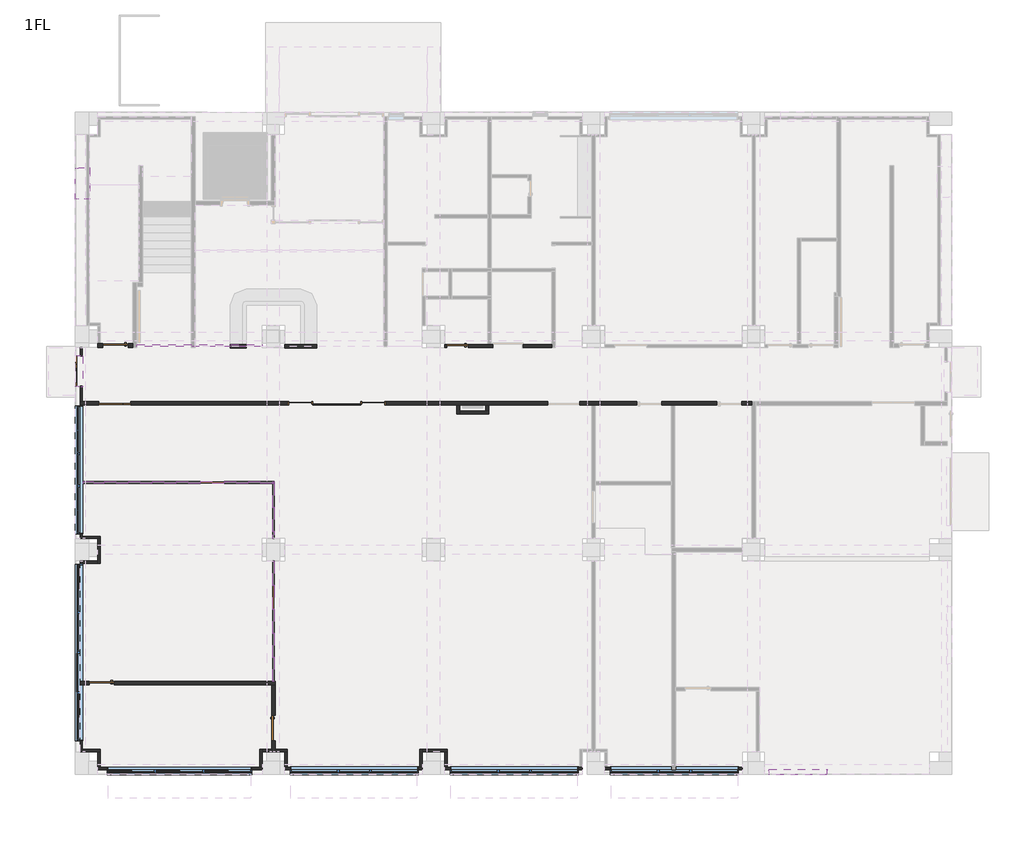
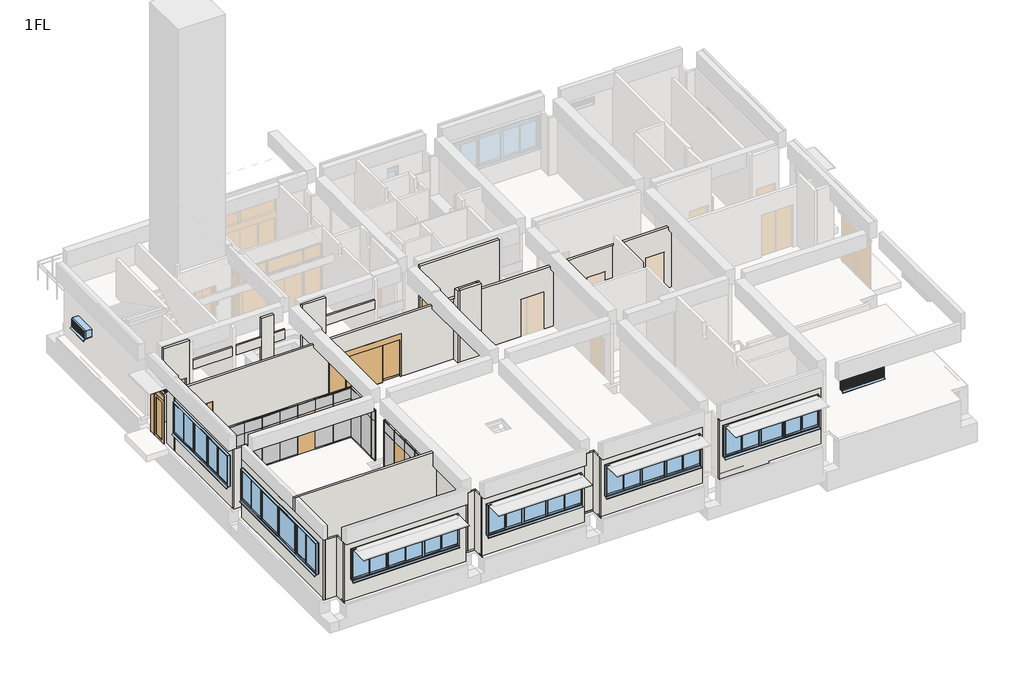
# One storey, part 1 of 7: 32 plates, 28 walls, 9 doors, 9 windows, 4 members.
"""IFC4 building model written with IfcOpenShell, lengths in millimetres."""

from ifc_helpers import new_model, si_unit, frame, origin, origin_with_axes, place, context, project, spatial, polyline, outline, extrude, faceted_brep, transform, mapped, element, save
from components import door_18b0804b, door_0812e9ce, door_48d1ee04, door_c406cbe6, door_71913196, pt1_1e1990d0, sd1b_5d5fe467, member_b4131282, member_8fee23aa, plate_13d9f7b6, plate_d83be5bd, plate_2d8f2c81, plate_48031bed, plate_dcb82f18, plate_a020456c, plate_84f50978, plate_53a28b3e, plate_ee08bcfe, plate_43aaac86, ag_01_14c91b01, ag_04_e8160d57, ag_05_8d684ac1, aw1_359d20a0, aw2_52e0dac3, aw3_6590dba5

model = new_model("IFC4")

# Units and contexts
model_context = context("Model", 3, world=origin())
ifc_project = project(units=[si_unit("LENGTHUNIT", "METRE", prefix="MILLI")], contexts=[model_context])

# Site, building, storey
site = spatial("IfcSite", under=ifc_project)
building = spatial("IfcBuilding", under=site)
storey = spatial("IfcBuildingStorey", under=building, Name="1FL", Elevation=0.0)

# Doors
placement = place(None, origin())
door_shape = door_18b0804b(model_context)
element("IfcDoor", 1, ObjectType="営_親子扉 : LD2 1200*2000", at=placement, inside=storey, context=model_context, shape_type="MappedRepresentation", body=[
    mapped(door_shape, transform((1055.0, 13500.0, 0.0), x_axis=(-1.0, 0.0, 0.0), y_axis=(0.0, -1.0, 0.0), z_axis=(0.0, 0.0, 1.0))),
])
door_2_shape = door_0812e9ce(model_context)
element("IfcDoor", 2, ObjectType="営_片開き扉 : LD3 950*2000", at=placement, inside=storey, context=model_context, shape_type="MappedRepresentation", body=[
    mapped(door_2_shape, transform((565.0, 3000.0, 0.0), x_axis=(-1.0, 0.0, 0.0), y_axis=(0.0, -1.0, 0.0), z_axis=(0.0, 0.0, 1.0))),
])
element("IfcDoor", 3, ObjectType="営_片開き扉 : LD3 950*2000", at=placement, inside=storey, context=model_context, shape_type="MappedRepresentation", body=[
    mapped(door_2_shape, transform((7000.0, 1320.0, 0.0), x_axis=(0.0, -1.0, 0.0), y_axis=(1.0, 0.0, 0.0), z_axis=(0.0, 0.0, 1.0))),
])
door_3_shape = door_48d1ee04(model_context)
element("IfcDoor", 4, ObjectType="営_片開き扉 : LD11 850*2000", at=placement, inside=storey, context=model_context, shape_type="MappedRepresentation", body=[
    mapped(door_3_shape, transform((13900.0, 15640.0, 0.0), x_axis=(-1.0, 0.0, 0.0), y_axis=(0.0, -1.0, 0.0), z_axis=(0.0, 0.0, 1.0))),
])
door_4_shape = door_c406cbe6(model_context)
element("IfcDoor", 5, ObjectType="営_片開き扉 : LD3 950*2000", at=placement, inside=storey, context=model_context, shape_type="MappedRepresentation", body=[
    mapped(door_4_shape, transform((1075.0, 15655.0, 0.0), x_axis=(-1.0, 0.0, 0.0), y_axis=(0.0, -1.0, 0.0), z_axis=(0.0, 0.0, 1.0))),
])
door_5_shape = door_71913196(model_context)
element("IfcDoor", 6, ObjectType="営_自動ドア 両引き : SSD2 3600*2300", at=placement, inside=storey, context=model_context, shape_type="MappedRepresentation", body=[
    mapped(door_5_shape, transform((9372.3723775, 13490.0, 0.0), x_axis=(-1.0, 0.0, 0.0), y_axis=(0.0, -1.0, 0.0), z_axis=(0.0, 0.0, 1.0))),
])
pt1_shape = pt1_1e1990d0(model_context)
element("IfcDoor", 7, ObjectType="営_パーティションドア : PT1", at=placement, inside=storey, context=model_context, shape_type="MappedRepresentation", body=[
    mapped(pt1_shape, transform((4714.9999997, 10520.0, 0.0), x_axis=(-1.0, 0.0, 0.0), y_axis=(0.0, -1.0, 0.0), z_axis=(0.0, 0.0, 1.0))),
])
element("IfcDoor", 8, ObjectType="営_パーティションドア : PT2", at=placement, inside=storey, context=model_context, shape_type="MappedRepresentation", body=[
    mapped(pt1_shape, transform((7000.0, 6220.0, 0.0), x_axis=(0.0, 1.0, 0.0), y_axis=(-1.0, 0.0, 0.0), z_axis=(0.0, 0.0, 1.0))),
])
sd1b_shape = sd1b_5d5fe467(model_context)
element("IfcDoor", 9, ObjectType="営_親子扉+ランマ : SD1b", at=placement, inside=storey, context=model_context, shape_type="MappedRepresentation", body=[
    mapped(sd1b_shape, transform((-335.0, 14707.5, 0.0), x_axis=(0.0, -1.0, 0.0), y_axis=(1.0, 0.0, 0.0), z_axis=(0.0, 0.0, 1.0))),
])

# Members
member_shape = member_b4131282(model_context)
element("IfcMember", 10, ObjectType="長方形マリオン : 70*70", at=placement, inside=storey, context=model_context, shape_type="MappedRepresentation", body=[
    mapped(member_shape, transform((7000.0, 10555.0, 0.0), x_axis=(0.0, 1.0, 0.0), y_axis=(1.0, 0.0, 0.0), z_axis=(0.0, 0.0, -1.0))),
])
element("IfcMember", 11, ObjectType="長方形マリオン : 70*70", at=placement, inside=storey, context=model_context, shape_type="MappedRepresentation", body=[
    mapped(member_shape, transform((7035.0, 10520.0, 0.0), x_axis=(1.0, 0.0, 0.0), y_axis=(0.0, -1.0, 0.0), z_axis=(0.0, 0.0, -1.0))),
])
member_2_shape = member_8fee23aa(model_context)
element("IfcMember", 12, ObjectType="長方形マリオン : 70*70", at=placement, inside=storey, context=model_context, shape_type="MappedRepresentation", body=[
    mapped(member_2_shape, transform((7000.0, 10555.0, 2100.0), x_axis=(0.0, 1.0, 0.0), y_axis=(1.0, 0.0, 0.0), z_axis=(0.0, 0.0, -1.0))),
])
element("IfcMember", 13, ObjectType="長方形マリオン : 70*70", at=placement, inside=storey, context=model_context, shape_type="MappedRepresentation", body=[
    mapped(member_2_shape, transform((7035.0, 10520.0, 2100.0), x_axis=(1.0, 0.0, 0.0), y_axis=(0.0, -1.0, 0.0), z_axis=(0.0, 0.0, -1.0))),
])

# Plates
plate_shape = plate_13d9f7b6(model_context)
element("IfcPlate", 14, ObjectType="営_パーティションパネル_下部 : パーティションパネル_下部", at=placement, inside=storey, context=model_context, shape_type="MappedRepresentation", body=[
    mapped(plate_shape, transform((7000.0, 7580.0, 0.0), x_axis=(0.0, -1.0, 0.0), y_axis=(1.0, 0.0, 0.0), z_axis=(0.0, 0.0, 1.0))),
])
plate_2_shape = plate_d83be5bd(model_context)
element("IfcPlate", 15, ObjectType="営_パーティションパネル_上部 : パーティションパネル_上部", at=placement, inside=storey, context=model_context, shape_type="MappedRepresentation", body=[
    mapped(plate_2_shape, transform((7000.0, 7580.0, 2100.0), x_axis=(0.0, -1.0, 0.0), y_axis=(1.0, 0.0, 0.0), z_axis=(0.0, 0.0, 1.0))),
])
plate_3_shape = plate_2d8f2c81(model_context)
element("IfcPlate", 16, ObjectType="営_パーティションパネル_下部 : パーティションパネル_下部", at=placement, inside=storey, context=model_context, shape_type="MappedRepresentation", body=[
    mapped(plate_3_shape, transform((267.4999998, 10520.0, 0.0), x_axis=(1.0, 0.0, 0.0), y_axis=(0.0, 1.0, 0.0), z_axis=(0.0, 0.0, 1.0))),
])
plate_4_shape = plate_48031bed(model_context)
element("IfcPlate", 17, ObjectType="営_パーティションパネル_上部 : パーティションパネル_上部", at=placement, inside=storey, context=model_context, shape_type="MappedRepresentation", body=[
    mapped(plate_4_shape, transform((267.4999998, 10520.0, 2100.0), x_axis=(1.0, 0.0, 0.0), y_axis=(0.0, 1.0, 0.0), z_axis=(0.0, 0.0, 1.0))),
])
plate_5_shape = plate_dcb82f18(model_context)
element("IfcPlate", 18, ObjectType="営_パーティションパネル_下部 : パーティションパネル_下部", at=placement, inside=storey, context=model_context, shape_type="MappedRepresentation", body=[
    mapped(plate_5_shape, transform((7000.0, 3515.0, 0.0), x_axis=(0.0, -1.0, 0.0), y_axis=(1.0, 0.0, 0.0), z_axis=(0.0, 0.0, 1.0))),
])
plate_6_shape = plate_a020456c(model_context)
element("IfcPlate", 19, ObjectType="営_パーティションパネル_上部 : パーティションパネル_上部", at=placement, inside=storey, context=model_context, shape_type="MappedRepresentation", body=[
    mapped(plate_6_shape, transform((7000.0, 3515.0, 2100.0), x_axis=(0.0, -1.0, 0.0), y_axis=(1.0, 0.0, 0.0), z_axis=(0.0, 0.0, 1.0))),
])
plate_7_shape = plate_84f50978(model_context)
element("IfcPlate", 20, ObjectType="営_パーティションパネル_下部 : パーティションパネル_下部", at=placement, inside=storey, context=model_context, shape_type="MappedRepresentation", body=[
    mapped(plate_7_shape, transform((1114.9999997, 10520.0, 0.0), x_axis=(1.0, 0.0, 0.0), y_axis=(0.0, 1.0, 0.0), z_axis=(0.0, 0.0, 1.0))),
])
element("IfcPlate", 21, ObjectType="営_パーティションパネル_下部 : パーティションパネル_下部", at=placement, inside=storey, context=model_context, shape_type="MappedRepresentation", body=[
    mapped(plate_7_shape, transform((2014.9999997, 10520.0, 0.0), x_axis=(1.0, 0.0, 0.0), y_axis=(0.0, 1.0, 0.0), z_axis=(0.0, 0.0, 1.0))),
])
element("IfcPlate", 22, ObjectType="営_パーティションパネル_下部 : パーティションパネル_下部", at=placement, inside=storey, context=model_context, shape_type="MappedRepresentation", body=[
    mapped(plate_7_shape, transform((2914.9999997, 10520.0, 0.0), x_axis=(1.0, 0.0, 0.0), y_axis=(0.0, 1.0, 0.0), z_axis=(0.0, 0.0, 1.0))),
])
element("IfcPlate", 23, ObjectType="営_パーティションパネル_下部 : パーティションパネル_下部", at=placement, inside=storey, context=model_context, shape_type="MappedRepresentation", body=[
    mapped(plate_7_shape, transform((3814.9999997, 10520.0, 0.0), x_axis=(1.0, 0.0, 0.0), y_axis=(0.0, 1.0, 0.0), z_axis=(0.0, 0.0, 1.0))),
])
element("IfcPlate", 24, ObjectType="営_パーティションパネル_下部 : パーティションパネル_下部", at=placement, inside=storey, context=model_context, shape_type="MappedRepresentation", body=[
    mapped(plate_7_shape, transform((5614.9999997, 10520.0, 0.0), x_axis=(1.0, 0.0, 0.0), y_axis=(0.0, 1.0, 0.0), z_axis=(0.0, 0.0, 1.0))),
])
element("IfcPlate", 25, ObjectType="営_パーティションパネル_下部 : パーティションパネル_下部", at=placement, inside=storey, context=model_context, shape_type="MappedRepresentation", body=[
    mapped(plate_7_shape, transform((7000.0, 9134.9999997, 0.0), x_axis=(0.0, 1.0, 0.0), y_axis=(-1.0, 0.0, 0.0), z_axis=(0.0, 0.0, 1.0))),
])
element("IfcPlate", 26, ObjectType="営_パーティションパネル_下部 : パーティションパネル_下部", at=placement, inside=storey, context=model_context, shape_type="MappedRepresentation", body=[
    mapped(plate_7_shape, transform((7000.0, 10034.9999998, 0.0), x_axis=(0.0, 1.0, 0.0), y_axis=(-1.0, 0.0, 0.0), z_axis=(0.0, 0.0, 1.0))),
])
element("IfcPlate", 27, ObjectType="営_パーティションパネル_下部 : パーティションパネル_下部", at=placement, inside=storey, context=model_context, shape_type="MappedRepresentation", body=[
    mapped(plate_7_shape, transform((6514.9999998, 10520.0, 0.0), x_axis=(1.0, 0.0, 0.0), y_axis=(0.0, 1.0, 0.0), z_axis=(0.0, 0.0, 1.0))),
])
element("IfcPlate", 28, ObjectType="営_パーティションパネル_下部 : パーティションパネル_下部", at=placement, inside=storey, context=model_context, shape_type="MappedRepresentation", body=[
    mapped(plate_7_shape, transform((7000.0, 5320.0, 0.0), x_axis=(0.0, -1.0, 0.0), y_axis=(1.0, 0.0, 0.0), z_axis=(0.0, 0.0, 1.0))),
])
element("IfcPlate", 29, ObjectType="営_パーティションパネル_下部 : パーティションパネル_下部", at=placement, inside=storey, context=model_context, shape_type="MappedRepresentation", body=[
    mapped(plate_7_shape, transform((7000.0, 4420.0, 0.0), x_axis=(0.0, -1.0, 0.0), y_axis=(1.0, 0.0, 0.0), z_axis=(0.0, 0.0, 1.0))),
])
element("IfcPlate", 30, ObjectType="営_パーティションパネル_下部 : パーティションパネル_下部", at=placement, inside=storey, context=model_context, shape_type="MappedRepresentation", body=[
    mapped(plate_7_shape, transform((7000.0, 7120.0, 0.0), x_axis=(0.0, -1.0, 0.0), y_axis=(1.0, 0.0, 0.0), z_axis=(0.0, 0.0, 1.0))),
])
plate_8_shape = plate_53a28b3e(model_context)
element("IfcPlate", 31, ObjectType="営_パーティションパネル_上部 : パーティションパネル_上部", at=placement, inside=storey, context=model_context, shape_type="MappedRepresentation", body=[
    mapped(plate_8_shape, transform((1114.9999997, 10520.0, 2100.0), x_axis=(1.0, 0.0, 0.0), y_axis=(0.0, 1.0, 0.0), z_axis=(0.0, 0.0, 1.0))),
])
element("IfcPlate", 32, ObjectType="営_パーティションパネル_上部 : パーティションパネル_上部", at=placement, inside=storey, context=model_context, shape_type="MappedRepresentation", body=[
    mapped(plate_8_shape, transform((2014.9999997, 10520.0, 2100.0), x_axis=(1.0, 0.0, 0.0), y_axis=(0.0, 1.0, 0.0), z_axis=(0.0, 0.0, 1.0))),
])
element("IfcPlate", 33, ObjectType="営_パーティションパネル_上部 : パーティションパネル_上部", at=placement, inside=storey, context=model_context, shape_type="MappedRepresentation", body=[
    mapped(plate_8_shape, transform((2914.9999997, 10520.0, 2100.0), x_axis=(1.0, 0.0, 0.0), y_axis=(0.0, 1.0, 0.0), z_axis=(0.0, 0.0, 1.0))),
])
element("IfcPlate", 34, ObjectType="営_パーティションパネル_上部 : パーティションパネル_上部", at=placement, inside=storey, context=model_context, shape_type="MappedRepresentation", body=[
    mapped(plate_8_shape, transform((3814.9999997, 10520.0, 2100.0), x_axis=(1.0, 0.0, 0.0), y_axis=(0.0, 1.0, 0.0), z_axis=(0.0, 0.0, 1.0))),
])
element("IfcPlate", 35, ObjectType="営_パーティションパネル_上部 : パーティションパネル_上部", at=placement, inside=storey, context=model_context, shape_type="MappedRepresentation", body=[
    mapped(plate_8_shape, transform((4714.9999997, 10520.0, 2100.0), x_axis=(1.0, 0.0, 0.0), y_axis=(0.0, 1.0, 0.0), z_axis=(0.0, 0.0, 1.0))),
])
element("IfcPlate", 36, ObjectType="営_パーティションパネル_上部 : パーティションパネル_上部", at=placement, inside=storey, context=model_context, shape_type="MappedRepresentation", body=[
    mapped(plate_8_shape, transform((5614.9999997, 10520.0, 2100.0), x_axis=(1.0, 0.0, 0.0), y_axis=(0.0, 1.0, 0.0), z_axis=(0.0, 0.0, 1.0))),
])
element("IfcPlate", 37, ObjectType="営_パーティションパネル_上部 : パーティションパネル_上部", at=placement, inside=storey, context=model_context, shape_type="MappedRepresentation", body=[
    mapped(plate_8_shape, transform((7000.0, 9134.9999997, 2100.0), x_axis=(0.0, 1.0, 0.0), y_axis=(-1.0, 0.0, 0.0), z_axis=(0.0, 0.0, 1.0))),
])
element("IfcPlate", 38, ObjectType="営_パーティションパネル_上部 : パーティションパネル_上部", at=placement, inside=storey, context=model_context, shape_type="MappedRepresentation", body=[
    mapped(plate_8_shape, transform((7000.0, 10034.9999998, 2100.0), x_axis=(0.0, 1.0, 0.0), y_axis=(-1.0, 0.0, 0.0), z_axis=(0.0, 0.0, 1.0))),
])
element("IfcPlate", 39, ObjectType="営_パーティションパネル_上部 : パーティションパネル_上部", at=placement, inside=storey, context=model_context, shape_type="MappedRepresentation", body=[
    mapped(plate_8_shape, transform((6514.9999998, 10520.0, 2100.0), x_axis=(1.0, 0.0, 0.0), y_axis=(0.0, 1.0, 0.0), z_axis=(0.0, 0.0, 1.0))),
])
element("IfcPlate", 40, ObjectType="営_パーティションパネル_上部 : パーティションパネル_上部", at=placement, inside=storey, context=model_context, shape_type="MappedRepresentation", body=[
    mapped(plate_8_shape, transform((7000.0, 6220.0, 2100.0), x_axis=(0.0, -1.0, 0.0), y_axis=(1.0, 0.0, 0.0), z_axis=(0.0, 0.0, 1.0))),
])
element("IfcPlate", 41, ObjectType="営_パーティションパネル_上部 : パーティションパネル_上部", at=placement, inside=storey, context=model_context, shape_type="MappedRepresentation", body=[
    mapped(plate_8_shape, transform((7000.0, 5320.0, 2100.0), x_axis=(0.0, -1.0, 0.0), y_axis=(1.0, 0.0, 0.0), z_axis=(0.0, 0.0, 1.0))),
])
element("IfcPlate", 42, ObjectType="営_パーティションパネル_上部 : パーティションパネル_上部", at=placement, inside=storey, context=model_context, shape_type="MappedRepresentation", body=[
    mapped(plate_8_shape, transform((7000.0, 4420.0, 2100.0), x_axis=(0.0, -1.0, 0.0), y_axis=(1.0, 0.0, 0.0), z_axis=(0.0, 0.0, 1.0))),
])
element("IfcPlate", 43, ObjectType="営_パーティションパネル_上部 : パーティションパネル_上部", at=placement, inside=storey, context=model_context, shape_type="MappedRepresentation", body=[
    mapped(plate_8_shape, transform((7000.0, 7120.0, 2100.0), x_axis=(0.0, -1.0, 0.0), y_axis=(1.0, 0.0, 0.0), z_axis=(0.0, 0.0, 1.0))),
])
plate_9_shape = plate_ee08bcfe(model_context)
element("IfcPlate", 44, ObjectType="営_パーティションパネル_下部 : パーティションパネル_下部", at=placement, inside=storey, context=model_context, shape_type="MappedRepresentation", body=[
    mapped(plate_9_shape, transform((7000.0, 8552.4999998, 0.0), x_axis=(0.0, 1.0, 0.0), y_axis=(-1.0, 0.0, 0.0), z_axis=(0.0, 0.0, 1.0))),
])
plate_10_shape = plate_43aaac86(model_context)
element("IfcPlate", 45, ObjectType="営_パーティションパネル_上部 : パーティションパネル_上部", at=placement, inside=storey, context=model_context, shape_type="MappedRepresentation", body=[
    mapped(plate_10_shape, transform((7000.0, 8552.4999998, 2100.0), x_axis=(0.0, 1.0, 0.0), y_axis=(-1.0, 0.0, 0.0), z_axis=(0.0, 0.0, 1.0))),
])

# Walls
element("IfcWall", 46, ObjectType="(内壁)W4", at=placement, inside=storey, context=model_context, shape_type="Brep", body=[
    faceted_brep([(-250.0, 2940.0, 3850.0), (-250.0, 2940.0, 0.0), (90.0, 2940.0, 0.0), (90.0, 2940.0, 2000.0), (1040.0, 2940.0, 2000.0), (1040.0, 2940.0, 0.0), (6940.0, 2940.0, 0.0), (7060.0, 2940.0, 0.0), (7060.0, 2940.0, 3100.0), (6940.0, 2940.0, 3100.0), (6775.0, 2940.0, 3100.0), (6775.0, 2940.0, 3850.0), (-250.0, 3060.0, 0.0), (-250.0, 3060.0, 3850.0), (6775.0, 3060.0, 3850.0), (6775.0, 3060.0, 3100.0), (7060.0, 3060.0, 3100.0), (7060.0, 3060.0, 0.0), (1040.0, 3060.0, 0.0), (1040.0, 3060.0, 2000.0), (90.0, 3060.0, 2000.0), (90.0, 3060.0, 0.0)], [[[0, 1, 2, 3, 4, 5, 6, 7, 8, 9, 10, 11]], [[12, 13, 14, 15, 16, 17, 18, 19, 20, 21]], [[1, 12, 21, 2]], [[17, 7, 6, 5, 18]], [[13, 0, 11, 14]], [[1, 0, 13, 12]], [[7, 17, 16, 8]], [[5, 4, 19, 18]], [[3, 2, 21, 20]], [[4, 3, 20, 19]], [[15, 10, 9, 8, 16]], [[10, 15, 14, 11]]]),
])
element("IfcWall", 47, ObjectType="(内壁)W4", at=placement, inside=storey, context=model_context, shape_type="Brep", body=[
    faceted_brep([(6940.0, 1795.0, 0.0), (6940.0, 1795.0, 2000.0), (6940.0, 845.0, 2000.0), (6940.0, 845.0, 0.0), (6940.0, 510.0, 0.0), (6940.0, 420.0, 0.0), (6940.0, 420.0, 3100.0), (6940.0, 510.0, 3100.0), (6940.0, 2940.0, 3100.0), (6940.0, 2940.0, 0.0), (7060.0, 1795.0, 2000.0), (7060.0, 1795.0, 0.0), (7060.0, 2940.0, 0.0), (7060.0, 2940.0, 3100.0), (7060.0, 510.0, 3100.0), (7060.0, 420.0, 3100.0), (7060.0, 420.0, 0.0), (7060.0, 510.0, 0.0), (7060.0, 845.0, 0.0), (7060.0, 845.0, 2000.0)], [[[0, 1, 2, 3, 4, 5, 6, 7, 8, 9]], [[10, 11, 12, 13, 14, 15, 16, 17, 18, 19]], [[9, 12, 11, 0]], [[3, 18, 17, 16, 5, 4]], [[12, 9, 8, 13]], [[11, 10, 1, 0]], [[19, 18, 3, 2]], [[10, 19, 2, 1]], [[5, 16, 15, 6]], [[8, 7, 6, 15, 14, 13]]]),
])
element("IfcWall", 48, ObjectType="(内壁)W3", at=placement, inside=storey, context=model_context, shape_type="Brep", body=[
    faceted_brep([(1655.0, 13440.0, 2000.0), (1655.0, 13440.0, 0.0), (7532.3723775, 13440.0, 0.0), (7532.3723775, 13440.0, 2300.0), (11212.3723775, 13440.0, 2300.0), (11212.3723775, 13440.0, 0.0), (13870.0, 13440.0, 0.0), (13990.0, 13440.0, 0.0), (14950.0, 13440.0, 0.0), (15070.0, 13440.0, 0.0), (17275.0, 13440.0, 0.0), (17275.0, 13440.0, 2000.0), (18475.0, 13440.0, 2000.0), (18475.0, 13440.0, 0.0), (20610.0, 13440.0, 0.0), (20610.0, 13440.0, 2000.0), (21560.0, 13440.0, 2000.0), (21560.0, 13440.0, 0.0), (21920.0, 13440.0, 0.0), (22040.0, 13440.0, 0.0), (23610.0, 13440.0, 0.0), (23610.0, 13440.0, 2000.0), (24560.0, 13440.0, 2000.0), (24560.0, 13440.0, 0.0), (24925.0, 13440.0, 0.0), (24925.0, 13440.0, 3100.0), (24775.0, 13440.0, 3100.0), (24775.0, 13440.0, 3250.0), (22040.0, 13440.0, 3250.0), (21920.0, 13440.0, 3250.0), (19225.0, 13440.0, 3250.0), (19225.0, 13440.0, 3100.0), (19060.0, 13440.0, 3100.0), (18940.0, 13440.0, 3100.0), (18775.0, 13440.0, 3100.0), (18775.0, 13440.0, 3250.0), (15070.0, 13440.0, 3250.0), (14950.0, 13440.0, 3250.0), (13990.0, 13440.0, 3250.0), (13870.0, 13440.0, 3250.0), (13225.0, 13440.0, 3250.0), (13225.0, 13440.0, 3100.0), (12775.0, 13440.0, 3100.0), (12775.0, 13440.0, 3250.0), (7225.0, 13440.0, 3250.0), (7225.0, 13440.0, 3100.0), (6775.0, 13440.0, 3100.0), (6775.0, 13440.0, 3250.0), (-50.0, 13440.0, 3250.0), (-50.0, 13440.0, 3100.0), (-160.0, 13440.0, 3100.0), (-250.0, 13440.0, 3100.0), (-250.0, 13440.0, 0.0), (-160.0, 13440.0, 0.0), (455.0, 13440.0, 0.0), (455.0, 13440.0, 2000.0), (1655.0, 13560.0, 0.0), (1655.0, 13560.0, 2000.0), (455.0, 13560.0, 2000.0), (455.0, 13560.0, 0.0), (-160.0, 13560.0, 0.0), (-250.0, 13560.0, 0.0), (-250.0, 13560.0, 3100.0), (-160.0, 13560.0, 3100.0), (-50.0, 13560.0, 3100.0), (-50.0, 13560.0, 3250.0), (6775.0, 13560.0, 3250.0), (6775.0, 13560.0, 3100.0), (7225.0, 13560.0, 3100.0), (7225.0, 13560.0, 3250.0), (12775.0, 13560.0, 3250.0), (12775.0, 13560.0, 3100.0), (13225.0, 13560.0, 3100.0), (13225.0, 13560.0, 3250.0), (18775.0, 13560.0, 3250.0), (18775.0, 13560.0, 3100.0), (19225.0, 13560.0, 3100.0), (19225.0, 13560.0, 3250.0), (24775.0, 13560.0, 3250.0), (24775.0, 13560.0, 3100.0), (24925.0, 13560.0, 3100.0), (24925.0, 13560.0, 0.0), (24560.0, 13560.0, 0.0), (24560.0, 13560.0, 2000.0), (23610.0, 13560.0, 2000.0), (23610.0, 13560.0, 0.0), (21560.0, 13560.0, 0.0), (21560.0, 13560.0, 2000.0), (20610.0, 13560.0, 2000.0), (20610.0, 13560.0, 0.0), (18475.0, 13560.0, 0.0), (18475.0, 13560.0, 2000.0), (17275.0, 13560.0, 2000.0), (17275.0, 13560.0, 0.0), (11212.3723775, 13560.0, 0.0), (11212.3723775, 13560.0, 2300.0), (7532.3723775, 13560.0, 2300.0), (7532.3723775, 13560.0, 0.0), (24925.0, 13555.0, 0.0), (24925.0, 13555.0, 3100.0)], [[[0, 1, 2, 3, 4, 5, 6, 7, 8, 9, 10, 11, 12, 13, 14, 15, 16, 17, 18, 19, 20, 21, 22, 23, 24, 25, 26, 27, 28, 29, 30, 31, 32, 33, 34, 35, 36, 37, 38, 39, 40, 41, 42, 43, 44, 45, 46, 47, 48, 49, 50, 51, 52, 53, 54, 55]], [[56, 57, 58, 59, 60, 61, 62, 63, 64, 65, 66, 67, 68, 69, 70, 71, 72, 73, 74, 75, 76, 77, 78, 79, 80, 81, 82, 83, 84, 85, 86, 87, 88, 89, 90, 91, 92, 93, 94, 95, 96, 97]], [[52, 61, 60, 59, 54, 53]], [[81, 98, 24, 23, 82]], [[1, 56, 97, 2]], [[93, 10, 9, 8, 7, 6, 5, 94]], [[13, 90, 89, 14]], [[17, 86, 85, 20, 19, 18]], [[77, 30, 29, 28, 27, 78]], [[65, 48, 47, 66]], [[69, 44, 43, 70]], [[73, 40, 39, 38, 37, 36, 35, 74]], [[61, 52, 51, 62]], [[24, 98, 81, 80, 99, 25]], [[1, 0, 57, 56]], [[55, 54, 59, 58]], [[0, 55, 58, 57]], [[93, 92, 11, 10]], [[91, 90, 13, 12]], [[92, 91, 12, 11]], [[89, 88, 15, 14]], [[87, 86, 17, 16]], [[88, 87, 16, 15]], [[85, 84, 21, 20]], [[83, 82, 23, 22]], [[84, 83, 22, 21]], [[64, 49, 48, 65]], [[49, 64, 63, 62, 51, 50]], [[68, 45, 44, 69]], [[45, 68, 67, 46]], [[46, 67, 66, 47]], [[72, 41, 40, 73]], [[41, 72, 71, 42]], [[42, 71, 70, 43]], [[76, 31, 30, 77]], [[31, 76, 75, 34, 33, 32]], [[34, 75, 74, 35]], [[79, 26, 25, 99, 80]], [[26, 79, 78, 27]], [[96, 3, 2, 97]], [[3, 96, 95, 4]], [[4, 95, 94, 5]]]),
])
element("IfcWall", 49, ObjectType="(内壁)W4", at=placement, inside=storey, context=model_context, shape_type="Brep", body=[
    faceted_brep([(17440.0, 15580.0, 0.0), (17440.0, 15580.0, 3850.0), (13420.0, 15580.0, 3850.0), (13420.0, 15580.0, 0.0), (13500.0, 15580.0, 0.0), (13500.0, 15580.0, 2000.0), (14300.0, 15580.0, 2000.0), (14300.0, 15580.0, 0.0), (15220.0, 15580.0, 0.0), (15220.0, 15580.0, 2025.0), (16355.0, 15580.0, 2025.0), (16355.0, 15580.0, 0.0), (17440.0, 15700.0, 3850.0), (17440.0, 15700.0, 0.0), (16355.0, 15700.0, 0.0), (16355.0, 15700.0, 2025.0), (15220.0, 15700.0, 2025.0), (15220.0, 15700.0, 0.0), (15160.0, 15700.0, 0.0), (15040.0, 15700.0, 0.0), (14300.0, 15700.0, 0.0), (14300.0, 15700.0, 2000.0), (13500.0, 15700.0, 2000.0), (13500.0, 15700.0, 0.0), (13420.0, 15700.0, 0.0), (13420.0, 15700.0, 3850.0), (15040.0, 15700.0, 3850.0), (15160.0, 15700.0, 3850.0)], [[[0, 1, 2, 3, 4, 5, 6, 7, 8, 9, 10, 11]], [[12, 13, 14, 15, 16, 17, 18, 19, 20, 21, 22, 23, 24, 25, 26, 27]], [[13, 0, 11, 14]], [[17, 8, 7, 20, 19, 18]], [[23, 4, 3, 24]], [[1, 12, 27, 26, 25, 2]], [[1, 0, 13, 12]], [[16, 9, 8, 17]], [[10, 15, 14, 11]], [[9, 16, 15, 10]], [[3, 2, 25, 24]], [[7, 6, 21, 20]], [[5, 4, 23, 22]], [[6, 5, 22, 21]]]),
])
element("IfcWall", 50, ObjectType="(内壁)W3", at=placement, inside=storey, context=model_context, shape_type="SweptSolid", body=[
    extrude(outline(polyline([(5980.0, 15570.0), (5380.0, 15570.0), (5380.0, 15690.0), (5980.0, 15690.0), (5980.0, 15570.0)])), origin_with_axes(), (0.0, 0.0, 1.0), 3850.0),
])
element("IfcWall", 51, ObjectType="(内壁)W3", at=placement, inside=storey, context=model_context, shape_type="SweptSolid", body=[
    extrude(outline(polyline([(8620.0, 15570.0), (7420.0, 15570.0), (7420.0, 15690.0), (8620.0, 15690.0), (8620.0, 15570.0)])), origin_with_axes(), (0.0, 0.0, 1.0), 3850.0),
])
element("IfcWall", 52, ObjectType="(内壁)150_RC", at=placement, inside=storey, context=model_context, shape_type="Brep", body=[
    faceted_brep([(1550.0, 15580.0, 2000.0), (1550.0, 15580.0, 0.0), (1725.0, 15580.0, 0.0), (1725.0, 15580.0, 3850.0), (1725.0, 15580.0, 3940.0), (420.0, 15580.0, 3940.0), (420.0, 15580.0, 0.0), (600.0, 15580.0, 0.0), (600.0, 15580.0, 2000.0), (1550.0, 15730.0, 0.0), (1550.0, 15730.0, 2000.0), (600.0, 15730.0, 2000.0), (600.0, 15730.0, 0.0), (510.0, 15730.0, 0.0), (420.0, 15730.0, 0.0), (420.0, 15730.0, 3100.0), (420.0, 15730.0, 3940.0), (1725.0, 15730.0, 3940.0), (1725.0, 15730.0, 0.0)], [[[0, 1, 2, 3, 4, 5, 6, 7, 8]], [[9, 10, 11, 12, 13, 14, 15, 16, 17, 18]], [[1, 9, 18, 2]], [[12, 7, 6, 14, 13]], [[4, 17, 16, 5]], [[1, 0, 10, 9]], [[8, 7, 12, 11]], [[0, 8, 11, 10]], [[6, 5, 16, 15, 14]], [[2, 18, 17, 4, 3]]]),
])
element("IfcWall", 53, ObjectType="(内壁)下がり壁", at=placement, inside=storey, context=model_context, shape_type="SweptSolid", body=[
    extrude(outline(polyline([(11140.0, 15690.0), (11140.0, 15615.0), (7420.0, 15615.0), (7420.0, 15690.0), (11140.0, 15690.0)])), frame((0.0, 0.0, 2310.0), z_axis=(0.0, 0.0, 1.0), x_axis=(1.0, 0.0, 0.0)), (0.0, 0.0, 1.0), 500.0),
    extrude(outline(polyline([(1875.0, 15615.0), (1875.0, 15690.0), (6580.0, 15690.0), (6580.0, 15615.0), (1875.0, 15615.0)])), frame((0.0, 0.0, 2310.0), z_axis=(0.0, 0.0, 1.0), x_axis=(1.0, 0.0, 0.0)), (0.0, 0.0, 1.0), 500.0),
])
element("IfcWall", 54, ObjectType="(内壁)W3", at=placement, inside=storey, context=model_context, shape_type="Brep", body=[
    faceted_brep([(13870.0, 13440.0, 0.0), (13870.0, 13090.0, 0.0), (13870.0, 13090.0, 3850.0), (13870.0, 13325.0, 3850.0), (13870.0, 13325.0, 3250.0), (13870.0, 13440.0, 3250.0), (13990.0, 13090.0, 0.0), (13990.0, 13210.0, 0.0), (13990.0, 13440.0, 0.0), (13990.0, 13440.0, 3250.0), (13990.0, 13325.0, 3250.0), (13990.0, 13325.0, 3850.0), (13990.0, 13210.0, 3850.0), (13990.0, 13090.0, 3850.0)], [[[0, 1, 2, 3, 4, 5]], [[6, 7, 8, 9, 10, 11, 12, 13]], [[1, 0, 8, 7, 6]], [[2, 13, 12, 11, 3]], [[8, 0, 5, 9]], [[2, 1, 6, 13]], [[10, 4, 3, 11]], [[4, 10, 9, 5]]]),
])
element("IfcWall", 55, ObjectType="(内壁)W3", at=placement, inside=storey, context=model_context, shape_type="Brep", body=[
    faceted_brep([(13990.0, 13090.0, 0.0), (15070.0, 13090.0, 0.0), (15070.0, 13090.0, 3850.0), (13990.0, 13090.0, 3850.0), (13990.0, 13210.0, 0.0), (13990.0, 13210.0, 3850.0), (14950.0, 13210.0, 3850.0), (15070.0, 13210.0, 3850.0), (15070.0, 13210.0, 0.0), (14950.0, 13210.0, 0.0)], [[[0, 1, 2, 3]], [[4, 5, 6, 7, 8, 9]], [[1, 0, 4, 9, 8]], [[3, 2, 7, 6, 5]], [[0, 3, 5, 4]], [[2, 1, 8, 7]]]),
])
element("IfcWall", 56, ObjectType="(内壁)W3", at=placement, inside=storey, context=model_context, shape_type="SweptSolid", body=[
    extrude(outline(polyline([(13440.0, 0.0), (13210.0, 0.0), (13210.0, 3850.0), (13325.0, 3850.0), (13325.0, 3250.0), (13440.0, 3250.0), (13440.0, 0.0)])), frame((14950.0, 0.0, 0.0), z_axis=(1.0, 0.0, 0.0), x_axis=(0.0, 1.0, 0.0)), (0.0, 0.0, 1.0), 120.0),
])
element("IfcWall", 57, ObjectType="(内壁)W5", at=placement, inside=storey, context=model_context, shape_type="Brep", body=[
    faceted_brep([(420.0, -250.0, -100.0), (6580.0, -250.0, -100.0), (6580.0, -250.0, 3100.0), (420.0, -250.0, 3100.0), (763.7951348, -250.0, 1065.0), (763.7951348, -250.0, 2720.0), (6188.7951348, -250.0, 2720.0), (6188.7951348, -250.0, 1065.0), (6580.0, -160.0, -100.0), (6490.0, -160.0, -100.0), (510.0, -160.0, -100.0), (420.0, -160.0, -100.0), (420.0, -160.0, 3100.0), (510.0, -160.0, 3100.0), (6490.0, -160.0, 3100.0), (6580.0, -160.0, 3100.0), (763.7951348, -160.0, 2720.0), (763.7951348, -160.0, 1065.0), (6188.7951348, -160.0, 1065.0), (6188.7951348, -160.0, 2720.0)], [[[0, 1, 2, 3], [4, 5, 6, 7]], [[8, 9, 10, 11, 12, 13, 14, 15], [16, 17, 18, 19]], [[1, 0, 11, 10, 9, 8]], [[3, 2, 15, 14, 13, 12]], [[16, 5, 4, 17]], [[18, 7, 6, 19]], [[17, 4, 7, 18]], [[5, 16, 19, 6]], [[2, 1, 8, 15]], [[0, 3, 12, 11]]]),
])
element("IfcWall", 58, ObjectType="(内壁)W5", at=placement, inside=storey, context=model_context, shape_type="Brep", body=[
    faceted_brep([(7420.0, -250.0, -100.0), (12580.0, -250.0, -100.0), (12580.0, -250.0, 3100.0), (7420.0, -250.0, 3100.0), (7621.2951348, -250.0, 1065.0), (7621.2951348, -250.0, 2720.0), (12441.2951348, -250.0, 2720.0), (12441.2951348, -250.0, 1065.0), (12580.0, -160.0, -100.0), (12490.0, -160.0, -100.0), (7510.0, -160.0, -100.0), (7420.0, -160.0, -100.0), (7420.0, -160.0, 3100.0), (7510.0, -160.0, 3100.0), (12490.0, -160.0, 3100.0), (12580.0, -160.0, 3100.0), (7621.2951348, -160.0, 2720.0), (7621.2951348, -160.0, 1065.0), (12441.2951348, -160.0, 1065.0), (12441.2951348, -160.0, 2720.0)], [[[0, 1, 2, 3], [4, 5, 6, 7]], [[8, 9, 10, 11, 12, 13, 14, 15], [16, 17, 18, 19]], [[1, 0, 11, 10, 9, 8]], [[3, 2, 15, 14, 13, 12]], [[2, 1, 8, 15]], [[0, 3, 12, 11]], [[16, 5, 4, 17]], [[18, 7, 6, 19]], [[17, 4, 7, 18]], [[5, 16, 19, 6]]]),
])
element("IfcWall", 59, ObjectType="(内壁)W5", at=placement, inside=storey, context=model_context, shape_type="Brep", body=[
    faceted_brep([(13420.0, -250.0, -100.0), (18580.0, -250.0, -100.0), (18580.0, -250.0, 3100.0), (13420.0, -250.0, 3100.0), (13621.2951348, -250.0, 1065.0), (13621.2951348, -250.0, 2720.0), (18441.2951348, -250.0, 2720.0), (18441.2951348, -250.0, 1065.0), (18580.0, -160.0, -100.0), (18490.0, -160.0, -100.0), (13510.0, -160.0, -100.0), (13420.0, -160.0, -100.0), (13420.0, -160.0, 3100.0), (13510.0, -160.0, 3100.0), (18490.0, -160.0, 3100.0), (18580.0, -160.0, 3100.0), (13621.2951348, -160.0, 2720.0), (13621.2951348, -160.0, 1065.0), (18441.2951348, -160.0, 1065.0), (18441.2951348, -160.0, 2720.0)], [[[0, 1, 2, 3], [4, 5, 6, 7]], [[8, 9, 10, 11, 12, 13, 14, 15], [16, 17, 18, 19]], [[1, 0, 11, 10, 9, 8]], [[3, 2, 15, 14, 13, 12]], [[2, 1, 8, 15]], [[0, 3, 12, 11]], [[16, 5, 4, 17]], [[18, 7, 6, 19]], [[17, 4, 7, 18]], [[5, 16, 19, 6]]]),
])
element("IfcWall", 60, ObjectType="(内壁)W5", at=placement, inside=storey, context=model_context, shape_type="Brep", body=[
    faceted_brep([(19420.0, -250.0, -100.0), (24580.0, -250.0, -100.0), (24580.0, -250.0, 3100.0), (19420.0, -250.0, 3100.0), (19621.2951348, -250.0, 1065.0), (19621.2951348, -250.0, 2720.0), (24441.2951348, -250.0, 2720.0), (24441.2951348, -250.0, 1065.0), (24580.0, -160.0, -100.0), (19510.0, -160.0, -100.0), (19420.0, -160.0, -100.0), (19420.0, -160.0, 3100.0), (19510.0, -160.0, 3100.0), (24580.0, -160.0, 3100.0), (19621.2951348, -160.0, 2720.0), (19621.2951348, -160.0, 1065.0), (24441.2951348, -160.0, 1065.0), (24441.2951348, -160.0, 2720.0)], [[[0, 1, 2, 3], [4, 5, 6, 7]], [[8, 9, 10, 11, 12, 13], [14, 15, 16, 17]], [[1, 0, 10, 9, 8]], [[2, 1, 8, 13]], [[3, 2, 13, 12, 11]], [[0, 3, 11, 10]], [[14, 5, 4, 15]], [[16, 7, 6, 17]], [[15, 4, 7, 16]], [[5, 14, 17, 6]]]),
])
element("IfcWall", 61, ObjectType="(内壁)W5", at=placement, inside=storey, context=model_context, shape_type="Brep", body=[
    faceted_brep([(-250.0, 7580.0, -100.0), (-250.0, 420.0, -100.0), (-250.0, 420.0, 3100.0), (-250.0, 7580.0, 3100.0), (-250.0, 7465.0, 1065.0), (-250.0, 7465.0, 2720.0), (-250.0, 835.0, 2720.0), (-250.0, 835.0, 1065.0), (-160.0, 420.0, -100.0), (-160.0, 510.0, -100.0), (-160.0, 7490.0, -100.0), (-160.0, 7580.0, -100.0), (-160.0, 7580.0, 3100.0), (-160.0, 7490.0, 3100.0), (-160.0, 510.0, 3100.0), (-160.0, 420.0, 3100.0), (-160.0, 7465.0, 2720.0), (-160.0, 7465.0, 1065.0), (-160.0, 835.0, 1065.0), (-160.0, 835.0, 2720.0)], [[[0, 1, 2, 3], [4, 5, 6, 7]], [[8, 9, 10, 11, 12, 13, 14, 15], [16, 17, 18, 19]], [[1, 0, 11, 10, 9, 8]], [[3, 2, 15, 14, 13, 12]], [[2, 1, 8, 15]], [[0, 3, 12, 11]], [[16, 5, 4, 17]], [[18, 7, 6, 19]], [[17, 4, 7, 18]], [[5, 16, 19, 6]]]),
])
element("IfcWall", 62, ObjectType="(内壁)W5", at=placement, inside=storey, context=model_context, shape_type="Brep", body=[
    faceted_brep([(-250.0, 8420.0, 0.0), (-250.0, 8420.0, 3100.0), (-250.0, 13440.0, 3100.0), (-250.0, 13440.0, 0.0), (-250.0, 13410.0, 1065.0), (-250.0, 13410.0, 2720.0), (-250.0, 8590.0, 2720.0), (-250.0, 8590.0, 1065.0), (-160.0, 8420.0, 3100.0), (-160.0, 8420.0, 0.0), (-160.0, 13440.0, 0.0), (-160.0, 13440.0, 3100.0), (-160.0, 8510.0, 3100.0), (-160.0, 13410.0, 2720.0), (-160.0, 13410.0, 1065.0), (-160.0, 8590.0, 1065.0), (-160.0, 8590.0, 2720.0)], [[[0, 1, 2, 3], [4, 5, 6, 7]], [[8, 9, 10, 11, 12], [13, 14, 15, 16]], [[9, 0, 3, 10]], [[1, 8, 12, 11, 2]], [[1, 0, 9, 8]], [[3, 2, 11, 10]], [[13, 5, 4, 14]], [[15, 7, 6, 16]], [[7, 15, 14, 4]], [[16, 6, 5, 13]]]),
    faceted_brep([(-250.0, 15262.5, 0.0), (-250.0, 15262.5, 2570.0), (-250.0, 14152.5, 2570.0), (-250.0, 14152.5, 0.0), (-250.0, 13560.0, 0.0), (-250.0, 13560.0, 3100.0), (-250.0, 14112.5, 3100.0), (-250.0, 14112.5, 2765.0), (-250.0, 15292.5, 2765.0), (-250.0, 15292.5, 3100.0), (-250.0, 15580.0, 3100.0), (-250.0, 15580.0, 0.0), (-160.0, 15262.5, 2570.0), (-160.0, 15262.5, 0.0), (-160.0, 15580.0, 0.0), (-160.0, 15580.0, 3100.0), (-160.0, 15292.5, 3100.0), (-160.0, 15292.5, 2765.0), (-160.0, 14112.5, 2765.0), (-160.0, 14112.5, 3100.0), (-160.0, 13560.0, 3100.0), (-160.0, 13560.0, 0.0), (-160.0, 14152.5, 0.0), (-160.0, 14152.5, 2570.0)], [[[0, 1, 2, 3, 4, 5, 6, 7, 8, 9, 10, 11]], [[12, 13, 14, 15, 16, 17, 18, 19, 20, 21, 22, 23]], [[13, 0, 11, 14]], [[3, 22, 21, 4]], [[10, 9, 16, 15]], [[19, 6, 5, 20]], [[13, 12, 1, 0]], [[23, 22, 3, 2]], [[12, 23, 2, 1]], [[9, 8, 17, 16]], [[7, 6, 19, 18]], [[8, 7, 18, 17]], [[5, 4, 21, 20]], [[11, 10, 15, 14]]]),
])
element("IfcWall", 63, ObjectType="(内壁)W5", at=placement, inside=storey, context=model_context, shape_type="Brep", body=[
    faceted_brep([(12580.0, -160.0, -100.0), (12580.0, 420.0, -100.0), (12580.0, 510.0, -100.0), (12580.0, 510.0, 3100.0), (12580.0, 420.0, 3100.0), (12580.0, -160.0, 3100.0), (12490.0, -160.0, -100.0), (12490.0, -160.0, 3100.0), (12490.0, 510.0, 3100.0), (12490.0, 510.0, -100.0)], [[[0, 1, 2, 3, 4, 5]], [[6, 7, 8, 9]], [[2, 1, 0, 6, 9]], [[5, 4, 3, 8, 7]], [[0, 5, 7, 6]], [[3, 2, 9, 8]]]),
])
element("IfcWall", 64, ObjectType="(内壁)W5", at=placement, inside=storey, context=model_context, shape_type="Brep", body=[
    faceted_brep([(12580.0, 420.0, -100.0), (13420.0, 420.0, -100.0), (13510.0, 420.0, -100.0), (13510.0, 420.0, 3100.0), (13420.0, 420.0, 3100.0), (12580.0, 420.0, 3100.0), (12580.0, 510.0, -100.0), (12580.0, 510.0, 3100.0), (13510.0, 510.0, 3100.0), (13510.0, 510.0, -100.0)], [[[0, 1, 2, 3, 4, 5]], [[6, 7, 8, 9]], [[2, 1, 0, 6, 9]], [[5, 4, 3, 8, 7]], [[0, 5, 7, 6]], [[3, 2, 9, 8]]]),
])
element("IfcWall", 65, ObjectType="(内壁)W5", at=placement, inside=storey, context=model_context, shape_type="SweptSolid", body=[
    extrude(outline(polyline([(13420.0, -160.0), (13420.0, 420.0), (13510.0, 420.0), (13510.0, -160.0), (13420.0, -160.0)])), frame((0.0, 0.0, -100.0), z_axis=(0.0, 0.0, 1.0), x_axis=(1.0, 0.0, 0.0)), (0.0, 0.0, 1.0), 3200.0),
])
element("IfcWall", 66, ObjectType="(内壁)W5", at=placement, inside=storey, context=model_context, shape_type="Brep", body=[
    faceted_brep([(6580.0, -160.0, -100.0), (6580.0, 420.0, -100.0), (6580.0, 510.0, -100.0), (6580.0, 510.0, 3100.0), (6580.0, 420.0, 3100.0), (6580.0, -160.0, 3100.0), (6490.0, -160.0, -100.0), (6490.0, -160.0, 3100.0), (6490.0, 510.0, 3100.0), (6490.0, 510.0, -100.0)], [[[0, 1, 2, 3, 4, 5]], [[6, 7, 8, 9]], [[2, 1, 0, 6, 9]], [[5, 4, 3, 8, 7]], [[0, 5, 7, 6]], [[3, 2, 9, 8]]]),
])
element("IfcWall", 67, ObjectType="(内壁)W5", at=placement, inside=storey, context=model_context, shape_type="Brep", body=[
    faceted_brep([(6580.0, 420.0, -100.0), (7420.0, 420.0, -100.0), (7510.0, 420.0, -100.0), (7510.0, 420.0, 3100.0), (7420.0, 420.0, 3100.0), (7060.0, 420.0, 3100.0), (7060.0, 420.0, 0.0), (6940.0, 420.0, 0.0), (6940.0, 420.0, 3100.0), (6580.0, 420.0, 3100.0), (7510.0, 510.0, -100.0), (6580.0, 510.0, -100.0), (6580.0, 510.0, 3100.0), (6940.0, 510.0, 3100.0), (6940.0, 510.0, 0.0), (7060.0, 510.0, 0.0), (7060.0, 510.0, 3100.0), (7510.0, 510.0, 3100.0)], [[[0, 1, 2, 3, 4, 5, 6, 7, 8, 9]], [[10, 11, 12, 13, 14, 15, 16, 17]], [[2, 1, 0, 11, 10]], [[12, 9, 8, 13]], [[3, 17, 16, 5, 4]], [[0, 9, 12, 11]], [[3, 2, 10, 17]], [[7, 14, 13, 8]], [[15, 6, 5, 16]], [[14, 7, 6, 15]]]),
])
element("IfcWall", 68, ObjectType="(内壁)W5", at=placement, inside=storey, context=model_context, shape_type="SweptSolid", body=[
    extrude(outline(polyline([(7420.0, -160.0), (7420.0, 420.0), (7510.0, 420.0), (7510.0, -160.0), (7420.0, -160.0)])), frame((0.0, 0.0, -100.0), z_axis=(0.0, 0.0, 1.0), x_axis=(1.0, 0.0, 0.0)), (0.0, 0.0, 1.0), 3200.0),
])
element("IfcWall", 69, ObjectType="(内壁)W5", at=placement, inside=storey, context=model_context, shape_type="Brep", body=[
    faceted_brep([(-160.0, 420.0, -100.0), (420.0, 420.0, -100.0), (510.0, 420.0, -100.0), (510.0, 420.0, 3100.0), (420.0, 420.0, 3100.0), (-160.0, 420.0, 3100.0), (-160.0, 510.0, -100.0), (-160.0, 510.0, 3100.0), (510.0, 510.0, 3100.0), (510.0, 510.0, -100.0)], [[[0, 1, 2, 3, 4, 5]], [[6, 7, 8, 9]], [[2, 1, 0, 6, 9]], [[5, 4, 3, 8, 7]], [[0, 5, 7, 6]], [[3, 2, 9, 8]]]),
])
element("IfcWall", 70, ObjectType="(内壁)W5", at=placement, inside=storey, context=model_context, shape_type="SweptSolid", body=[
    extrude(outline(polyline([(420.0, -160.0), (420.0, 420.0), (510.0, 420.0), (510.0, -160.0), (420.0, -160.0)])), frame((0.0, 0.0, -100.0), z_axis=(0.0, 0.0, 1.0), x_axis=(1.0, 0.0, 0.0)), (0.0, 0.0, 1.0), 3200.0),
])
element("IfcWall", 71, ObjectType="(内壁)W5", at=placement, inside=storey, context=model_context, shape_type="Brep", body=[
    faceted_brep([(-160.0, 8420.0, -100.0), (420.0, 8420.0, -100.0), (510.0, 8420.0, -100.0), (510.0, 8420.0, 3100.0), (420.0, 8420.0, 3100.0), (-160.0, 8420.0, 3100.0), (-160.0, 8420.0, 0.0), (-160.0, 8510.0, -100.0), (-160.0, 8510.0, 3100.0), (510.0, 8510.0, 3100.0), (510.0, 8510.0, -100.0)], [[[0, 1, 2, 3, 4, 5, 6]], [[7, 8, 9, 10]], [[2, 1, 0, 7, 10]], [[5, 4, 3, 9, 8]], [[0, 6, 5, 8, 7]], [[3, 2, 10, 9]]]),
])
element("IfcWall", 72, ObjectType="(内壁)W5", at=placement, inside=storey, context=model_context, shape_type="Brep", body=[
    faceted_brep([(420.0, 8420.0, -100.0), (420.0, 7580.0, -100.0), (420.0, 7490.0, -100.0), (420.0, 7490.0, 3100.0), (420.0, 7580.0, 3100.0), (420.0, 8420.0, 3100.0), (510.0, 8420.0, -100.0), (510.0, 8420.0, 3100.0), (510.0, 7490.0, 3100.0), (510.0, 7490.0, -100.0)], [[[0, 1, 2, 3, 4, 5]], [[6, 7, 8, 9]], [[2, 1, 0, 6, 9]], [[5, 4, 3, 8, 7]], [[0, 5, 7, 6]], [[3, 2, 9, 8]]]),
])
element("IfcWall", 73, ObjectType="(内壁)W5", at=placement, inside=storey, context=model_context, shape_type="SweptSolid", body=[
    extrude(outline(polyline([(-160.0, 7580.0), (420.0, 7580.0), (420.0, 7490.0), (-160.0, 7490.0), (-160.0, 7580.0)])), frame((0.0, 0.0, -100.0), z_axis=(0.0, 0.0, 1.0), x_axis=(1.0, 0.0, 0.0)), (0.0, 0.0, 1.0), 3200.0),
])

# Windows
ag_01_shape = ag_01_14c91b01(model_context)
element("IfcWindow", 74, ObjectType="営_単窓_ガラリ : AG-01", at=placement, inside=storey, context=model_context, shape_type="MappedRepresentation", body=[
    mapped(ag_01_shape, transform((26662.7, -335.0, 1400.0), x_axis=(-1.0, 0.0, 0.0), y_axis=(0.0, -1.0, 0.0), z_axis=(0.0, 0.0, 1.0))),
])
ag_04_shape = ag_04_e8160d57(model_context)
element("IfcWindow", 75, ObjectType="営_単窓_ガラリ : AG-05", at=placement, inside=storey, context=model_context, shape_type="MappedRepresentation", body=[
    mapped(ag_04_shape, transform((-335.0, 21735.0, 200.0), x_axis=(0.0, 1.0, 0.0), y_axis=(-1.0, 0.0, 0.0), z_axis=(0.0, 0.0, 1.0))),
])
ag_05_shape = ag_05_8d684ac1(model_context)
element("IfcWindow", 76, ObjectType="営_単窓_ガラリ : AG-05", at=placement, inside=storey, context=model_context, shape_type="MappedRepresentation", body=[
    mapped(ag_05_shape, transform((-335.0, 14702.5, 1600.0), x_axis=(0.0, 1.0, 0.0), y_axis=(-1.0, 0.0, 0.0), z_axis=(0.0, 0.0, 1.0))),
])
aw1_shape = aw1_359d20a0(model_context)
element("IfcWindow", 77, ObjectType="営_連窓_両開き戸2+FIX1 : AW1", at=placement, inside=storey, context=model_context, shape_type="MappedRepresentation", body=[
    mapped(aw1_shape, transform((22031.2951348, -335.0, 0.0), x_axis=(-1.0, 0.0, 0.0), y_axis=(0.0, -1.0, 0.0), z_axis=(0.0, 0.0, 1.0))),
])
element("IfcWindow", 78, ObjectType="営_連窓_両開き戸2+FIX1 : AW1", at=placement, inside=storey, context=model_context, shape_type="MappedRepresentation", body=[
    mapped(aw1_shape, transform((-335.0, 11000.0, 0.0), x_axis=(0.0, 1.0, 0.0), y_axis=(-1.0, 0.0, 0.0), z_axis=(0.0, 0.0, 1.0))),
])
element("IfcWindow", 79, ObjectType="営_連窓_両開き戸2+FIX1 : AW1", at=placement, inside=storey, context=model_context, shape_type="MappedRepresentation", body=[
    mapped(aw1_shape, transform((16031.2951348, -335.0, 0.0), x_axis=(-1.0, 0.0, 0.0), y_axis=(0.0, -1.0, 0.0), z_axis=(0.0, 0.0, 1.0))),
])
element("IfcWindow", 80, ObjectType="営_連窓_両開き戸2+FIX1 : AW1", at=placement, inside=storey, context=model_context, shape_type="MappedRepresentation", body=[
    mapped(aw1_shape, transform((10031.2951348, -335.0, 0.0), x_axis=(-1.0, 0.0, 0.0), y_axis=(0.0, -1.0, 0.0), z_axis=(0.0, 0.0, 1.0))),
])
aw2_shape = aw2_52e0dac3(model_context)
element("IfcWindow", 81, ObjectType="営_連窓_引違い3 : AW2", at=placement, inside=storey, context=model_context, shape_type="MappedRepresentation", body=[
    mapped(aw2_shape, transform((3476.2951348, -335.0, 0.0), x_axis=(-1.0, 0.0, 0.0), y_axis=(0.0, -1.0, 0.0), z_axis=(0.0, 0.0, 1.0))),
])
aw3_shape = aw3_6590dba5(model_context)
element("IfcWindow", 82, ObjectType="営_連窓_引違い2+FIX2 : AW3", at=placement, inside=storey, context=model_context, shape_type="MappedRepresentation", body=[
    mapped(aw3_shape, transform((-335.0, 4150.0, 0.0), x_axis=(0.0, 1.0, 0.0), y_axis=(-1.0, 0.0, 0.0), z_axis=(0.0, 0.0, 1.0))),
])

save(model, "model.ifc")
